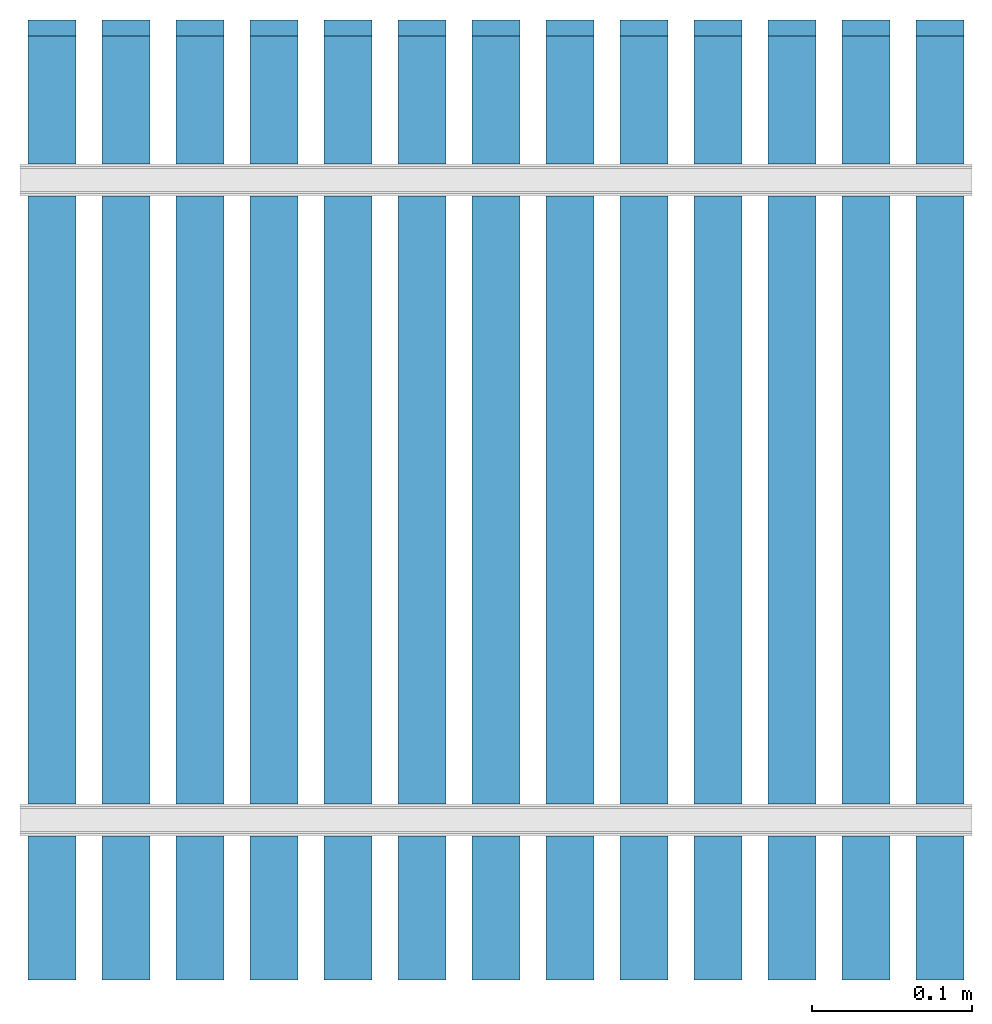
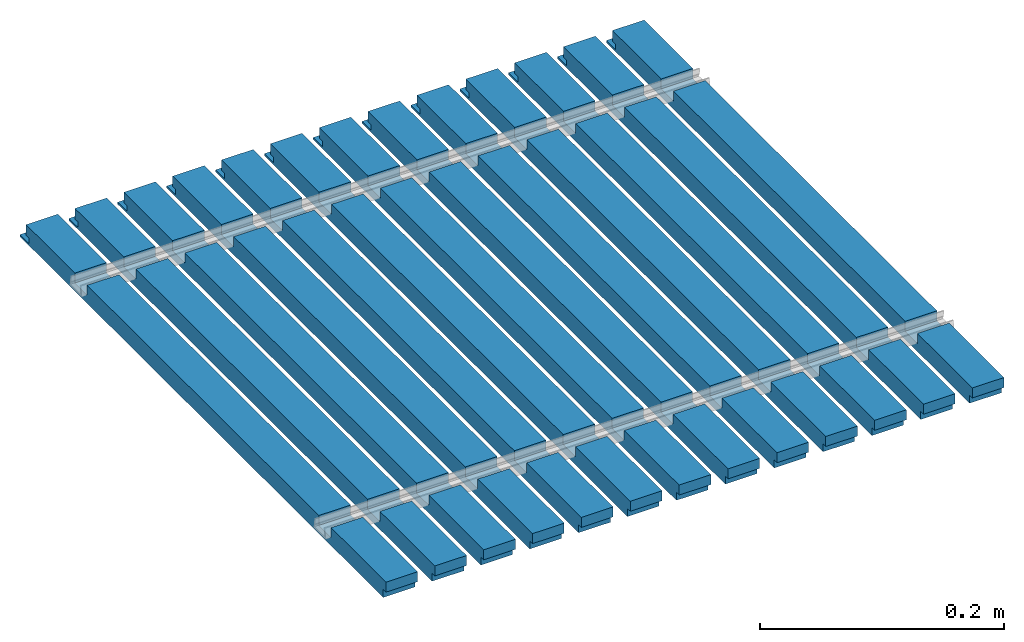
# One storey, part 2 of 2: 13 walls.
"""IFC2X3 building model written with IfcOpenShell, lengths in millimetres."""

import ifcopenshell
import ifcopenshell.guid

model = None  # the IFC model being written
_history = None  # IfcOwnerHistory: only IFC2X3 demands one
_inside = {}  # id of a spatial element -> (the spatial element, [elements in it])
_under = {}  # id of a project, library or spatial element -> (it, [spatial elements below it])
_declared = {}  # id of a project -> (the project, [libraries it declares])
_typed = {}  # id of a type object -> (the type object, [elements of that type])
_made_of = {}  # id of a material, layer set ... -> (it, [elements and type objects made of it])


def new_model(schema):
    """Start an empty IFC model of exactly this schema.

    Asked for "IFC4X3", IfcOpenShell would pick the latest addendum, in which some entities
    have other attributes; the version numbers below select the first issue.
    IFC2X3 requires an IfcOwnerHistory on every rooted entity: one is made here for all.
    """
    global model, _history
    if schema == "IFC4X3":
        model = ifcopenshell.file(schema_version=(4, 3, 0, 0))
    else:
        model = ifcopenshell.file(schema=schema)
    _inside.clear()
    _under.clear()
    _declared.clear()
    _typed.clear()
    _made_of.clear()
    _history = None
    if model.schema == "IFC2X3":
        org = make("IfcOrganization", Name="unknown")
        user = make(
            "IfcPersonAndOrganization",
            ThePerson=make("IfcPerson", FamilyName="unknown"),
            TheOrganization=org,
        )
        app = make(
            "IfcApplication",
            ApplicationDeveloper=org,
            Version="unknown",
            ApplicationFullName="unknown",
            ApplicationIdentifier="unknown",
        )
        _history = make(
            "IfcOwnerHistory",
            OwningUser=user,
            OwningApplication=app,
            ChangeAction="ADDED",
            CreationDate=0,
        )
    return model


def make(cls, **values):
    """One entity of the class cls with the attributes given. An attribute that is None is left unset."""
    return model.create_entity(
        cls, **{name: value for name, value in values.items() if value is not None}
    )


def entity(cls, *values):
    """Any entity or typed value of the class cls, its attributes in the order of the schema. None: left unset."""
    e = model.create_entity(cls)
    for i, value in enumerate(values):
        if value is not None:
            e[i] = value
    return e


def rooted(cls, **values):
    """An entity with a GlobalId (a new one), such as an element, a storey or a relation."""
    return make(cls, GlobalId=ifcopenshell.guid.new(), OwnerHistory=_history, **values)


def si_unit(unit_type, name, prefix=None):
    """IfcSIUnit, for example si_unit("LENGTHUNIT", "METRE", prefix="MILLI")."""
    return make("IfcSIUnit", UnitType=unit_type, Prefix=prefix, Name=name)


def converted_unit(unit_type, name, factor, base, dimensions=None, offset=None):
    """IfcConversionBasedUnit, such as the inch: factor (a typed value) times the base unit."""
    return make(
        "IfcConversionBasedUnit"
        if offset is None
        else "IfcConversionBasedUnitWithOffset",
        ConversionOffset=offset,
        Dimensions=None
        if dimensions is None
        else entity("IfcDimensionalExponents", *dimensions),
        UnitType=unit_type,
        Name=name,
        ConversionFactor=make(
            "IfcMeasureWithUnit", ValueComponent=factor, UnitComponent=base
        ),
    )


def money_unit(currency):
    """IfcMonetaryUnit."""
    return make("IfcMonetaryUnit", Currency=currency)


def assignment(units):
    """IfcUnitAssignment: the units of a project."""
    return None if units is None else make("IfcUnitAssignment", Units=units)


def point(xyz):
    """IfcCartesianPoint."""
    return None if xyz is None else make("IfcCartesianPoint", Coordinates=xyz)


def direction(xyz):
    """IfcDirection."""
    return None if xyz is None else make("IfcDirection", DirectionRatios=xyz)


def frame(location, z_axis=None, x_axis=None):
    """IfcAxis2Placement3D, a coordinate frame: its origin and axes. An axis left out is left unset."""
    return make(
        "IfcAxis2Placement3D",
        Location=point(location),
        Axis=direction(z_axis),
        RefDirection=direction(x_axis),
    )


def origin_with_axes():
    """The frame at (0, 0, 0) with the z axis (0, 0, 1) and the x axis (1, 0, 0) written out."""
    return frame((0.0, 0.0, 0.0), z_axis=(0.0, 0.0, 1.0), x_axis=(1.0, 0.0, 0.0))


def place(relative_to, where):
    """IfcLocalPlacement: puts the frame where relative to a parent placement (None: the world)."""
    return make(
        "IfcLocalPlacement", PlacementRelTo=relative_to, RelativePlacement=where
    )


def context(
    kind, dimensions, precision=None, world=None, true_north=None, identifier=None
):
    """IfcGeometricRepresentationContext, for example the 3D "Model" context."""
    return make(
        "IfcGeometricRepresentationContext",
        ContextIdentifier=identifier,
        ContextType=kind,
        CoordinateSpaceDimension=dimensions,
        Precision=precision,
        WorldCoordinateSystem=world,
        TrueNorth=true_north,
    )


def subcontext(parent, identifier, kind, view, scale=None):
    """IfcGeometricRepresentationSubContext, for example "Body" below "Model"."""
    return make(
        "IfcGeometricRepresentationSubContext",
        ContextIdentifier=identifier,
        ContextType=kind,
        ParentContext=parent,
        TargetScale=scale,
        TargetView=view,
    )


def project(units=None, contexts=None):
    """IfcProject with its units and contexts."""
    return rooted(
        "IfcProject",
        Name="project",
        RepresentationContexts=contexts,
        UnitsInContext=assignment(units),
    )


def spatial(cls, under=None, at=None, **own):
    """A site, building, storey or space (cls), placed at a placement, below another one or the project."""
    s = rooted(cls, ObjectPlacement=at, **own)
    if under is not None:
        _under.setdefault(under.id(), (under, []))[1].append(s)
    return s


def polyline(points):
    """IfcPolyline through the points."""
    return make("IfcPolyline", Points=[point(p) for p in points])


def outline(outer, holes=None, kind="AREA"):
    """IfcArbitraryClosedProfileDef: a profile drawn as a closed curve; with holes, ...WithVoids."""
    if holes is None:
        return make("IfcArbitraryClosedProfileDef", ProfileType=kind, OuterCurve=outer)
    return make(
        "IfcArbitraryProfileDefWithVoids",
        ProfileType=kind,
        OuterCurve=outer,
        InnerCurves=holes,
    )


def extrude(swept, where, along, depth):
    """IfcExtrudedAreaSolid: the profile swept, set in the frame where, extruded along a direction by depth."""
    return make(
        "IfcExtrudedAreaSolid",
        SweptArea=swept,
        Position=where,
        ExtrudedDirection=direction(along),
        Depth=depth,
    )


def boolean(op, a, b):
    """IfcBooleanResult of two solids."""
    return make("IfcBooleanResult", Operator=op, FirstOperand=a, SecondOperand=b)


def faces_of(points, faces, orient=None, outer=None):
    """IfcFace entities. A face is a list of loops; a loop is a list of indices into points, from 0.

    orient and outer hold one flag for each loop. By default every Orientation is true, the
    first loop of a face is its IfcFaceOuterBound and the others are IfcFaceBound.
    """
    made = []
    for i, loops in enumerate(faces):
        bounds = []
        for j, loop in enumerate(loops):
            is_outer = j == 0 if outer is None else outer[i][j]
            bounds.append(
                make(
                    "IfcFaceOuterBound" if is_outer else "IfcFaceBound",
                    Bound=make("IfcPolyLoop", Polygon=[points[k] for k in loop]),
                    Orientation=True if orient is None else orient[i][j],
                )
            )
        made.append(make("IfcFace", Bounds=bounds))
    return made


def faceted_brep(points, faces, orient=None, outer=None, voids=None):
    """IfcFacetedBrep: a solid bounded by flat faces; with voids (closed shells), ...WithVoids."""
    shared = [point(p) for p in points]
    hull = make("IfcClosedShell", CfsFaces=faces_of(shared, faces, orient, outer))
    if voids is None:
        return make("IfcFacetedBrep", Outer=hull)
    return make(
        "IfcFacetedBrepWithVoids",
        Outer=hull,
        Voids=[
            make(cls, CfsFaces=faces_of(shared, fs, o, b)) for cls, fs, o, b in voids
        ],
    )


def shape(context_of_items, identifier, shape_type, items):
    """IfcShapeRepresentation: the items that make up one representation, for example the "Body"."""
    return make(
        "IfcShapeRepresentation",
        ContextOfItems=context_of_items,
        RepresentationIdentifier=identifier,
        RepresentationType=shape_type,
        Items=items,
    )


def material(Name=None, Category=None):
    """IfcMaterial."""
    return make("IfcMaterial", Name=Name, Category=Category)


def layer(
    of_material, thickness, ventilated=None, Name=None, Category=None, Priority=None
):
    """IfcMaterialLayer: one layer of a wall or slab, of a material (None: an air gap)."""
    return make(
        "IfcMaterialLayer",
        Material=of_material,
        LayerThickness=thickness,
        IsVentilated=ventilated,
        Name=Name,
        Category=Category,
        Priority=Priority,
    )


def layer_set(layers, Name=None):
    """IfcMaterialLayerSet."""
    return make("IfcMaterialLayerSet", MaterialLayers=layers, LayerSetName=Name)


def layer_usage(for_layer_set, set_direction, sense, offset, extent=None):
    """IfcMaterialLayerSetUsage: how a layer set lies in its element."""
    return make(
        "IfcMaterialLayerSetUsage",
        ForLayerSet=for_layer_set,
        LayerSetDirection=set_direction,
        DirectionSense=sense,
        OffsetFromReferenceLine=offset,
        ReferenceExtent=extent,
    )


def made_of(thing, what):
    """Note that an element or type object is made of a material, layer set ...; save() writes the relation."""
    if what is not None:
        _made_of.setdefault(what.id(), (what, []))[1].append(thing)
    return thing


def type_object(cls, material=None, **own):
    """A type object (cls), such as IfcWallType, which elements share."""
    return made_of(rooted(cls, **own), material)


def element(
    cls,
    number,
    at=None,
    inside=None,
    cuts=None,
    type_object=None,
    material=None,
    context=None,
    identifier="Body",
    shape_type=None,
    held_by="IfcProductDefinitionShape",
    body=None,
    shapes=None,
    **own,
):
    """One element of the class cls, such as IfcWall. Its Tag is "e" and its number.

    at: its placement. inside: the storey or other place that contains it. cuts: it is an
    opening in that element (IfcRelVoidsElement). A single representation is given by context,
    identifier, shape_type and body (its items); several are given by shapes. held_by: the class
    of the entity that holds the representations. save() writes the other relations.
    """
    e = rooted(cls, Tag="e%d" % number, ObjectPlacement=at, **own)
    if body is not None:
        shapes = [shape(context, identifier, shape_type, body)]
    if shapes is not None:
        e.Representation = make(held_by, Representations=shapes)
    if inside is not None:
        _inside.setdefault(inside.id(), (inside, []))[1].append(e)
    if cuts is not None:
        rooted(
            "IfcRelVoidsElement", RelatingBuildingElement=cuts, RelatedOpeningElement=e
        )
    if type_object is not None:
        _typed.setdefault(type_object.id(), (type_object, []))[1].append(e)
    return made_of(e, material)


def aggregate(whole, parts):
    """IfcRelAggregates: a whole, such as a stair, and the parts it consists of."""
    return rooted("IfcRelAggregates", RelatingObject=whole, RelatedObjects=parts)


def save(model, path):
    """Write the relations noted so far, then the file.

    IfcRelAggregates (storeys below a building ...), IfcRelContainedInSpatialStructure (elements
    in a storey), IfcRelDefinesByType, IfcRelAssociatesMaterial and IfcRelDeclares: one each for
    every whole, place, type object, material and project.
    """
    for whole, parts in _under.values():
        aggregate(whole, parts)
    for where, things in _inside.values():
        rooted(
            "IfcRelContainedInSpatialStructure",
            RelatedElements=things,
            RelatingStructure=where,
        )
    for kind, things in _typed.values():
        rooted("IfcRelDefinesByType", RelatedObjects=things, RelatingType=kind)
    for what, things in _made_of.values():
        rooted("IfcRelAssociatesMaterial", RelatedObjects=things, RelatingMaterial=what)
    for by, libraries in _declared.values():
        rooted("IfcRelDeclares", RelatingContext=by, RelatedDefinitions=libraries)
    model.write(path)


model = new_model("IFC2X3")

# Units and contexts
model_context = context("Model", 3, precision=1e-05, world=origin_with_axes(), true_north=direction((0.0, 1.0)))
body_context = subcontext(model_context, "Body", "Model", "MODEL_VIEW")
ifc_project = project(units=[si_unit("LENGTHUNIT", "METRE", prefix="MILLI"), si_unit("AREAUNIT", "SQUARE_METRE"), si_unit("VOLUMEUNIT", "CUBIC_METRE"), converted_unit("PLANEANGLEUNIT", "DEGREE", entity("IfcPlaneAngleMeasure", 0.0174532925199), si_unit("PLANEANGLEUNIT", "RADIAN"), dimensions=[0, 0, 0, 0, 0, 0, 0]), si_unit("SOLIDANGLEUNIT", "STERADIAN"), money_unit("AUD"), si_unit("TIMEUNIT", "SECOND"), si_unit("MASSUNIT", "GRAM"), si_unit("THERMODYNAMICTEMPERATUREUNIT", "DEGREE_CELSIUS"), si_unit("LUMINOUSINTENSITYUNIT", "LUMEN")], contexts=[model_context])

# Site, building, storey
site_placement = place(None, origin_with_axes())
site = spatial("IfcSite", under=ifc_project, at=site_placement, Name="Site", CompositionType="ELEMENT")
building_placement = place(site_placement, origin_with_axes())
building = spatial("IfcBuilding", under=site, at=building_placement, Name="Building", CompositionType="ELEMENT")
storey_placement = place(building_placement, origin_with_axes())
storey = spatial("IfcBuildingStorey", under=building, at=storey_placement, Name="GROUND", CompositionType="ELEMENT", Elevation=0.0)

# Walls
ifc_material = material(Name="Timber")
ifc_layer = layer(ifc_material, 30.0, ventilated="UNKNOWN")
ifc_layer_set = layer_set([ifc_layer], Name="Timber 30")
ifc_layer_usage_1 = layer_usage(ifc_layer_set, "AXIS2", "POSITIVE", 0.0)
wall_type = type_object("IfcWallType", Name="Timber 30", PredefinedType="NOTDEFINED")
wall_1_placement = place(storey_placement, frame((592.5, 0.0, 0.0), z_axis=(0.0, 0.0, 1.0), x_axis=(0.0, 1.0, 0.0)))
element("IfcWallStandardCase", 1, at=wall_1_placement, inside=storey, type_object=wall_type, material=ifc_layer_usage_1, Name="WALL-01", context=body_context, shape_type="CSG", body=[
    boolean("DIFFERENCE", boolean("DIFFERENCE", boolean("DIFFERENCE", boolean("DIFFERENCE", extrude(outline(polyline([(0.0, 0.0), (600.0, 0.0), (600.0, 30.0), (0.0, 30.0), (0.0, 0.0)])), origin_with_axes(), (0.0, 0.0, 1.0), 18.0), faceted_brep([(4.5, 0.0, 8.0), (0.0, 0.0, 8.0), (0.0, 0.0, 0.0), (4.5, 0.0, 0.0), (4.5, 30.0, 8.0), (0.0, 30.0, 8.0), (0.0, 30.0, 0.0), (4.5, 30.0, 0.0)], [[[0, 1, 2, 3]], [[1, 0, 4, 5]], [[1, 5, 6, 2]], [[7, 3, 2, 6]], [[0, 3, 7, 4]], [[4, 7, 6, 5]]])), faceted_brep([(90.0, 0.0, 8.0), (110.000000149, 0.0, 8.0), (110.000000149, 0.0, 18.0), (90.0, 0.0, 18.0), (90.0, 30.0, 8.0), (110.000000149, 30.0, 8.0), (110.000000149, 30.0, 18.0), (90.0, 30.0, 18.0)], [[[0, 1, 2, 3]], [[1, 0, 4, 5]], [[6, 2, 1, 5]], [[7, 3, 2, 6]], [[0, 3, 7, 4]], [[4, 7, 6, 5]]])), faceted_brep([(490.0, 0.0, 8.0), (510.000000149, 0.0, 8.0), (510.000000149, 0.0, 18.0), (490.0, 0.0, 18.0), (490.0, 30.0, 8.0), (510.000000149, 30.0, 8.0), (510.000000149, 30.0, 18.0), (490.0, 30.0, 18.0)], [[[0, 1, 2, 3]], [[1, 0, 4, 5]], [[6, 2, 1, 5]], [[7, 3, 2, 6]], [[0, 3, 7, 4]], [[4, 7, 6, 5]]])), faceted_brep([(585.0, 0.0, 7.5), (585.0, 0.0, 2.0), (600.0, 0.0, 2.0), (600.0, 0.0, 18.0), (590.0, 0.0, 18.0), (590.0, 0.0, 7.5), (585.0, 30.0, 7.5), (585.0, 30.0, 2.0), (600.0, 30.0, 2.0), (600.0, 30.0, 18.0), (590.0, 30.0, 18.0), (590.0, 30.0, 7.5)], [[[0, 1, 2, 3, 4, 5]], [[1, 0, 6, 7]], [[8, 2, 1, 7]], [[2, 8, 9, 3]], [[10, 4, 3, 9]], [[5, 4, 10, 11]], [[0, 5, 11, 6]], [[11, 10, 9, 8, 7, 6]]])),
])
ifc_layer_usage_2 = layer_usage(ifc_layer_set, "AXIS2", "POSITIVE", 0.0)
wall_2_placement = place(storey_placement, frame((546.25, 0.0, 0.0), z_axis=(0.0, 0.0, 1.0), x_axis=(0.0, 1.0, 0.0)))
element("IfcWallStandardCase", 2, at=wall_2_placement, inside=storey, type_object=wall_type, material=ifc_layer_usage_2, Name="WALL-01", context=body_context, shape_type="CSG", body=[
    boolean("DIFFERENCE", boolean("DIFFERENCE", boolean("DIFFERENCE", boolean("DIFFERENCE", extrude(outline(polyline([(0.0, 0.0), (600.0, 0.0), (600.0, 30.0), (0.0, 30.0), (0.0, 0.0)])), origin_with_axes(), (0.0, 0.0, 1.0), 18.0), faceted_brep([(4.5, 0.0, 8.0), (0.0, 0.0, 8.0), (0.0, 0.0, 0.0), (4.5, 0.0, 0.0), (4.5, 30.0, 8.0), (0.0, 30.0, 8.0), (0.0, 30.0, 0.0), (4.5, 30.0, 0.0)], [[[0, 1, 2, 3]], [[1, 0, 4, 5]], [[1, 5, 6, 2]], [[7, 3, 2, 6]], [[0, 3, 7, 4]], [[4, 7, 6, 5]]])), faceted_brep([(90.0, 0.0, 8.0), (110.000000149, 0.0, 8.0), (110.000000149, 0.0, 18.0), (90.0, 0.0, 18.0), (90.0, 30.0, 8.0), (110.000000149, 30.0, 8.0), (110.000000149, 30.0, 18.0), (90.0, 30.0, 18.0)], [[[0, 1, 2, 3]], [[1, 0, 4, 5]], [[6, 2, 1, 5]], [[7, 3, 2, 6]], [[0, 3, 7, 4]], [[4, 7, 6, 5]]])), faceted_brep([(490.0, 0.0, 8.0), (510.000000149, 0.0, 8.0), (510.000000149, 0.0, 18.0), (490.0, 0.0, 18.0), (490.0, 30.0, 8.0), (510.000000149, 30.0, 8.0), (510.000000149, 30.0, 18.0), (490.0, 30.0, 18.0)], [[[0, 1, 2, 3]], [[1, 0, 4, 5]], [[6, 2, 1, 5]], [[7, 3, 2, 6]], [[0, 3, 7, 4]], [[4, 7, 6, 5]]])), faceted_brep([(585.0, 0.0, 7.5), (585.0, 0.0, 2.0), (600.0, 0.0, 2.0), (600.0, 0.0, 18.0), (590.0, 0.0, 18.0), (590.0, 0.0, 7.5), (585.0, 30.0, 7.5), (585.0, 30.0, 2.0), (600.0, 30.0, 2.0), (600.0, 30.0, 18.0), (590.0, 30.0, 18.0), (590.0, 30.0, 7.5)], [[[0, 1, 2, 3, 4, 5]], [[1, 0, 6, 7]], [[8, 2, 1, 7]], [[2, 8, 9, 3]], [[10, 4, 3, 9]], [[5, 4, 10, 11]], [[0, 5, 11, 6]], [[11, 10, 9, 8, 7, 6]]])),
])
ifc_layer_usage_3 = layer_usage(ifc_layer_set, "AXIS2", "POSITIVE", 0.0)
wall_3_placement = place(storey_placement, frame((500.0, 0.0, 0.0), z_axis=(0.0, 0.0, 1.0), x_axis=(0.0, 1.0, 0.0)))
element("IfcWallStandardCase", 3, at=wall_3_placement, inside=storey, type_object=wall_type, material=ifc_layer_usage_3, Name="WALL-01", context=body_context, shape_type="CSG", body=[
    boolean("DIFFERENCE", boolean("DIFFERENCE", boolean("DIFFERENCE", boolean("DIFFERENCE", extrude(outline(polyline([(0.0, 0.0), (600.0, 0.0), (600.0, 30.0), (0.0, 30.0), (0.0, 0.0)])), origin_with_axes(), (0.0, 0.0, 1.0), 18.0), faceted_brep([(4.5, 0.0, 8.0), (0.0, 0.0, 8.0), (0.0, 0.0, 0.0), (4.5, 0.0, 0.0), (4.5, 30.0, 8.0), (0.0, 30.0, 8.0), (0.0, 30.0, 0.0), (4.5, 30.0, 0.0)], [[[0, 1, 2, 3]], [[1, 0, 4, 5]], [[1, 5, 6, 2]], [[7, 3, 2, 6]], [[0, 3, 7, 4]], [[4, 7, 6, 5]]])), faceted_brep([(90.0, 0.0, 8.0), (110.000000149, 0.0, 8.0), (110.000000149, 0.0, 18.0), (90.0, 0.0, 18.0), (90.0, 30.0, 8.0), (110.000000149, 30.0, 8.0), (110.000000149, 30.0, 18.0), (90.0, 30.0, 18.0)], [[[0, 1, 2, 3]], [[1, 0, 4, 5]], [[6, 2, 1, 5]], [[7, 3, 2, 6]], [[0, 3, 7, 4]], [[4, 7, 6, 5]]])), faceted_brep([(490.0, 0.0, 8.0), (510.000000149, 0.0, 8.0), (510.000000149, 0.0, 18.0), (490.0, 0.0, 18.0), (490.0, 30.0, 8.0), (510.000000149, 30.0, 8.0), (510.000000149, 30.0, 18.0), (490.0, 30.0, 18.0)], [[[0, 1, 2, 3]], [[1, 0, 4, 5]], [[6, 2, 1, 5]], [[7, 3, 2, 6]], [[0, 3, 7, 4]], [[4, 7, 6, 5]]])), faceted_brep([(585.0, 0.0, 7.5), (585.0, 0.0, 2.0), (600.0, 0.0, 2.0), (600.0, 0.0, 18.0), (590.0, 0.0, 18.0), (590.0, 0.0, 7.5), (585.0, 30.0, 7.5), (585.0, 30.0, 2.0), (600.0, 30.0, 2.0), (600.0, 30.0, 18.0), (590.0, 30.0, 18.0), (590.0, 30.0, 7.5)], [[[0, 1, 2, 3, 4, 5]], [[1, 0, 6, 7]], [[8, 2, 1, 7]], [[2, 8, 9, 3]], [[10, 4, 3, 9]], [[5, 4, 10, 11]], [[0, 5, 11, 6]], [[11, 10, 9, 8, 7, 6]]])),
])
ifc_layer_usage_4 = layer_usage(ifc_layer_set, "AXIS2", "POSITIVE", 0.0)
wall_4_placement = place(storey_placement, frame((453.75, 0.0, 0.0), z_axis=(0.0, 0.0, 1.0), x_axis=(0.0, 1.0, 0.0)))
element("IfcWallStandardCase", 4, at=wall_4_placement, inside=storey, type_object=wall_type, material=ifc_layer_usage_4, Name="WALL-01", context=body_context, shape_type="CSG", body=[
    boolean("DIFFERENCE", boolean("DIFFERENCE", boolean("DIFFERENCE", boolean("DIFFERENCE", extrude(outline(polyline([(0.0, 0.0), (600.0, 0.0), (600.0, 30.0), (0.0, 30.0), (0.0, 0.0)])), origin_with_axes(), (0.0, 0.0, 1.0), 18.0), faceted_brep([(4.5, 0.0, 8.0), (0.0, 0.0, 8.0), (0.0, 0.0, 0.0), (4.5, 0.0, 0.0), (4.5, 30.0, 8.0), (0.0, 30.0, 8.0), (0.0, 30.0, 0.0), (4.5, 30.0, 0.0)], [[[0, 1, 2, 3]], [[1, 0, 4, 5]], [[1, 5, 6, 2]], [[7, 3, 2, 6]], [[0, 3, 7, 4]], [[4, 7, 6, 5]]])), faceted_brep([(90.0, 0.0, 8.0), (110.000000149, 0.0, 8.0), (110.000000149, 0.0, 18.0), (90.0, 0.0, 18.0), (90.0, 30.0, 8.0), (110.000000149, 30.0, 8.0), (110.000000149, 30.0, 18.0), (90.0, 30.0, 18.0)], [[[0, 1, 2, 3]], [[1, 0, 4, 5]], [[6, 2, 1, 5]], [[7, 3, 2, 6]], [[0, 3, 7, 4]], [[4, 7, 6, 5]]])), faceted_brep([(490.0, 0.0, 8.0), (510.000000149, 0.0, 8.0), (510.000000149, 0.0, 18.0), (490.0, 0.0, 18.0), (490.0, 30.0, 8.0), (510.000000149, 30.0, 8.0), (510.000000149, 30.0, 18.0), (490.0, 30.0, 18.0)], [[[0, 1, 2, 3]], [[1, 0, 4, 5]], [[6, 2, 1, 5]], [[7, 3, 2, 6]], [[0, 3, 7, 4]], [[4, 7, 6, 5]]])), faceted_brep([(585.0, 0.0, 7.5), (585.0, 0.0, 2.0), (600.0, 0.0, 2.0), (600.0, 0.0, 18.0), (590.0, 0.0, 18.0), (590.0, 0.0, 7.5), (585.0, 30.0, 7.5), (585.0, 30.0, 2.0), (600.0, 30.0, 2.0), (600.0, 30.0, 18.0), (590.0, 30.0, 18.0), (590.0, 30.0, 7.5)], [[[0, 1, 2, 3, 4, 5]], [[1, 0, 6, 7]], [[8, 2, 1, 7]], [[2, 8, 9, 3]], [[10, 4, 3, 9]], [[5, 4, 10, 11]], [[0, 5, 11, 6]], [[11, 10, 9, 8, 7, 6]]])),
])
ifc_layer_usage_5 = layer_usage(ifc_layer_set, "AXIS2", "POSITIVE", 0.0)
wall_5_placement = place(storey_placement, frame((407.5, 0.0, 0.0), z_axis=(0.0, 0.0, 1.0), x_axis=(0.0, 1.0, 0.0)))
element("IfcWallStandardCase", 5, at=wall_5_placement, inside=storey, type_object=wall_type, material=ifc_layer_usage_5, Name="WALL-01", context=body_context, shape_type="CSG", body=[
    boolean("DIFFERENCE", boolean("DIFFERENCE", boolean("DIFFERENCE", boolean("DIFFERENCE", extrude(outline(polyline([(0.0, 0.0), (600.0, 0.0), (600.0, 30.0), (0.0, 30.0), (0.0, 0.0)])), origin_with_axes(), (0.0, 0.0, 1.0), 18.0), faceted_brep([(4.5, 0.0, 8.0), (0.0, 0.0, 8.0), (0.0, 0.0, 0.0), (4.5, 0.0, 0.0), (4.5, 30.0, 8.0), (0.0, 30.0, 8.0), (0.0, 30.0, 0.0), (4.5, 30.0, 0.0)], [[[0, 1, 2, 3]], [[1, 0, 4, 5]], [[1, 5, 6, 2]], [[7, 3, 2, 6]], [[0, 3, 7, 4]], [[4, 7, 6, 5]]])), faceted_brep([(90.0, 0.0, 8.0), (110.000000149, 0.0, 8.0), (110.000000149, 0.0, 18.0), (90.0, 0.0, 18.0), (90.0, 30.0, 8.0), (110.000000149, 30.0, 8.0), (110.000000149, 30.0, 18.0), (90.0, 30.0, 18.0)], [[[0, 1, 2, 3]], [[1, 0, 4, 5]], [[6, 2, 1, 5]], [[7, 3, 2, 6]], [[0, 3, 7, 4]], [[4, 7, 6, 5]]])), faceted_brep([(490.0, 0.0, 8.0), (510.000000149, 0.0, 8.0), (510.000000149, 0.0, 18.0), (490.0, 0.0, 18.0), (490.0, 30.0, 8.0), (510.000000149, 30.0, 8.0), (510.000000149, 30.0, 18.0), (490.0, 30.0, 18.0)], [[[0, 1, 2, 3]], [[1, 0, 4, 5]], [[6, 2, 1, 5]], [[7, 3, 2, 6]], [[0, 3, 7, 4]], [[4, 7, 6, 5]]])), faceted_brep([(585.0, 0.0, 7.5), (585.0, 0.0, 2.0), (600.0, 0.0, 2.0), (600.0, 0.0, 18.0), (590.0, 0.0, 18.0), (590.0, 0.0, 7.5), (585.0, 30.0, 7.5), (585.0, 30.0, 2.0), (600.0, 30.0, 2.0), (600.0, 30.0, 18.0), (590.0, 30.0, 18.0), (590.0, 30.0, 7.5)], [[[0, 1, 2, 3, 4, 5]], [[1, 0, 6, 7]], [[8, 2, 1, 7]], [[2, 8, 9, 3]], [[10, 4, 3, 9]], [[5, 4, 10, 11]], [[0, 5, 11, 6]], [[11, 10, 9, 8, 7, 6]]])),
])
ifc_layer_usage_6 = layer_usage(ifc_layer_set, "AXIS2", "POSITIVE", 0.0)
wall_6_placement = place(storey_placement, frame((222.5, 0.0, 0.0), z_axis=(0.0, 0.0, 1.0), x_axis=(0.0, 1.0, 0.0)))
element("IfcWallStandardCase", 6, at=wall_6_placement, inside=storey, type_object=wall_type, material=ifc_layer_usage_6, Name="WALL-01", context=body_context, shape_type="CSG", body=[
    boolean("DIFFERENCE", boolean("DIFFERENCE", boolean("DIFFERENCE", boolean("DIFFERENCE", extrude(outline(polyline([(0.0, 0.0), (600.0, 0.0), (600.0, 30.0), (0.0, 30.0), (0.0, 0.0)])), origin_with_axes(), (0.0, 0.0, 1.0), 18.0), faceted_brep([(4.5, 0.0, 8.0), (0.0, 0.0, 8.0), (0.0, 0.0, 0.0), (4.5, 0.0, 0.0), (4.5, 30.0, 8.0), (0.0, 30.0, 8.0), (0.0, 30.0, 0.0), (4.5, 30.0, 0.0)], [[[0, 1, 2, 3]], [[1, 0, 4, 5]], [[1, 5, 6, 2]], [[7, 3, 2, 6]], [[0, 3, 7, 4]], [[4, 7, 6, 5]]])), faceted_brep([(90.0, 0.0, 8.0), (110.000000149, 0.0, 8.0), (110.000000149, 0.0, 18.0), (90.0, 0.0, 18.0), (90.0, 30.0, 8.0), (110.000000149, 30.0, 8.0), (110.000000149, 30.0, 18.0), (90.0, 30.0, 18.0)], [[[0, 1, 2, 3]], [[1, 0, 4, 5]], [[6, 2, 1, 5]], [[7, 3, 2, 6]], [[0, 3, 7, 4]], [[4, 7, 6, 5]]])), faceted_brep([(490.0, 0.0, 8.0), (510.000000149, 0.0, 8.0), (510.000000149, 0.0, 18.0), (490.0, 0.0, 18.0), (490.0, 30.0, 8.0), (510.000000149, 30.0, 8.0), (510.000000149, 30.0, 18.0), (490.0, 30.0, 18.0)], [[[0, 1, 2, 3]], [[1, 0, 4, 5]], [[6, 2, 1, 5]], [[7, 3, 2, 6]], [[0, 3, 7, 4]], [[4, 7, 6, 5]]])), faceted_brep([(585.0, 0.0, 7.5), (585.0, 0.0, 2.0), (600.0, 0.0, 2.0), (600.0, 0.0, 18.0), (590.0, 0.0, 18.0), (590.0, 0.0, 7.5), (585.0, 30.0, 7.5), (585.0, 30.0, 2.0), (600.0, 30.0, 2.0), (600.0, 30.0, 18.0), (590.0, 30.0, 18.0), (590.0, 30.0, 7.5)], [[[0, 1, 2, 3, 4, 5]], [[1, 0, 6, 7]], [[8, 2, 1, 7]], [[2, 8, 9, 3]], [[10, 4, 3, 9]], [[5, 4, 10, 11]], [[0, 5, 11, 6]], [[11, 10, 9, 8, 7, 6]]])),
])
ifc_layer_usage_7 = layer_usage(ifc_layer_set, "AXIS2", "POSITIVE", 0.0)
wall_7_placement = place(storey_placement, frame((268.75, 0.0, 0.0), z_axis=(0.0, 0.0, 1.0), x_axis=(0.0, 1.0, 0.0)))
element("IfcWallStandardCase", 7, at=wall_7_placement, inside=storey, type_object=wall_type, material=ifc_layer_usage_7, Name="WALL-01", context=body_context, shape_type="CSG", body=[
    boolean("DIFFERENCE", boolean("DIFFERENCE", boolean("DIFFERENCE", boolean("DIFFERENCE", extrude(outline(polyline([(0.0, 0.0), (600.0, 0.0), (600.0, 30.0), (0.0, 30.0), (0.0, 0.0)])), origin_with_axes(), (0.0, 0.0, 1.0), 18.0), faceted_brep([(4.5, 0.0, 8.0), (0.0, 0.0, 8.0), (0.0, 0.0, 0.0), (4.5, 0.0, 0.0), (4.5, 30.0, 8.0), (0.0, 30.0, 8.0), (0.0, 30.0, 0.0), (4.5, 30.0, 0.0)], [[[0, 1, 2, 3]], [[1, 0, 4, 5]], [[1, 5, 6, 2]], [[7, 3, 2, 6]], [[0, 3, 7, 4]], [[4, 7, 6, 5]]])), faceted_brep([(90.0, 0.0, 8.0), (110.000000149, 0.0, 8.0), (110.000000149, 0.0, 18.0), (90.0, 0.0, 18.0), (90.0, 30.0, 8.0), (110.000000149, 30.0, 8.0), (110.000000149, 30.0, 18.0), (90.0, 30.0, 18.0)], [[[0, 1, 2, 3]], [[1, 0, 4, 5]], [[6, 2, 1, 5]], [[7, 3, 2, 6]], [[0, 3, 7, 4]], [[4, 7, 6, 5]]])), faceted_brep([(490.0, 0.0, 8.0), (510.000000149, 0.0, 8.0), (510.000000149, 0.0, 18.0), (490.0, 0.0, 18.0), (490.0, 30.0, 8.0), (510.000000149, 30.0, 8.0), (510.000000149, 30.0, 18.0), (490.0, 30.0, 18.0)], [[[0, 1, 2, 3]], [[1, 0, 4, 5]], [[6, 2, 1, 5]], [[7, 3, 2, 6]], [[0, 3, 7, 4]], [[4, 7, 6, 5]]])), faceted_brep([(585.0, 0.0, 7.5), (585.0, 0.0, 2.0), (600.0, 0.0, 2.0), (600.0, 0.0, 18.0), (590.0, 0.0, 18.0), (590.0, 0.0, 7.5), (585.0, 30.0, 7.5), (585.0, 30.0, 2.0), (600.0, 30.0, 2.0), (600.0, 30.0, 18.0), (590.0, 30.0, 18.0), (590.0, 30.0, 7.5)], [[[0, 1, 2, 3, 4, 5]], [[1, 0, 6, 7]], [[8, 2, 1, 7]], [[2, 8, 9, 3]], [[10, 4, 3, 9]], [[5, 4, 10, 11]], [[0, 5, 11, 6]], [[11, 10, 9, 8, 7, 6]]])),
])
ifc_layer_usage_8 = layer_usage(ifc_layer_set, "AXIS2", "POSITIVE", 0.0)
wall_8_placement = place(storey_placement, frame((37.5, 0.0, 0.0), z_axis=(0.0, 0.0, 1.0), x_axis=(0.0, 1.0, 0.0)))
element("IfcWallStandardCase", 8, at=wall_8_placement, inside=storey, type_object=wall_type, material=ifc_layer_usage_8, Name="WALL-01", context=body_context, shape_type="CSG", body=[
    boolean("DIFFERENCE", boolean("DIFFERENCE", boolean("DIFFERENCE", boolean("DIFFERENCE", extrude(outline(polyline([(0.0, 0.0), (600.0, 0.0), (600.0, 30.0), (0.0, 30.0), (0.0, 0.0)])), origin_with_axes(), (0.0, 0.0, 1.0), 18.0), faceted_brep([(4.5, 0.0, 8.0), (0.0, 0.0, 8.0), (0.0, 0.0, 0.0), (4.5, 0.0, 0.0), (4.5, 30.0, 8.0), (0.0, 30.0, 8.0), (0.0, 30.0, 0.0), (4.5, 30.0, 0.0)], [[[0, 1, 2, 3]], [[1, 0, 4, 5]], [[1, 5, 6, 2]], [[7, 3, 2, 6]], [[0, 3, 7, 4]], [[4, 7, 6, 5]]])), faceted_brep([(90.0, 0.0, 8.0), (110.000000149, 0.0, 8.0), (110.000000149, 0.0, 18.0), (90.0, 0.0, 18.0), (90.0, 30.0, 8.0), (110.000000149, 30.0, 8.0), (110.000000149, 30.0, 18.0), (90.0, 30.0, 18.0)], [[[0, 1, 2, 3]], [[1, 0, 4, 5]], [[6, 2, 1, 5]], [[7, 3, 2, 6]], [[0, 3, 7, 4]], [[4, 7, 6, 5]]])), faceted_brep([(490.0, 0.0, 8.0), (510.000000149, 0.0, 8.0), (510.000000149, 0.0, 18.0), (490.0, 0.0, 18.0), (490.0, 30.0, 8.0), (510.000000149, 30.0, 8.0), (510.000000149, 30.0, 18.0), (490.0, 30.0, 18.0)], [[[0, 1, 2, 3]], [[1, 0, 4, 5]], [[6, 2, 1, 5]], [[7, 3, 2, 6]], [[0, 3, 7, 4]], [[4, 7, 6, 5]]])), faceted_brep([(585.0, 0.0, 7.5), (585.0, 0.0, 2.0), (600.0, 0.0, 2.0), (600.0, 0.0, 18.0), (590.0, 0.0, 18.0), (590.0, 0.0, 7.5), (585.0, 30.0, 7.5), (585.0, 30.0, 2.0), (600.0, 30.0, 2.0), (600.0, 30.0, 18.0), (590.0, 30.0, 18.0), (590.0, 30.0, 7.5)], [[[0, 1, 2, 3, 4, 5]], [[1, 0, 6, 7]], [[8, 2, 1, 7]], [[2, 8, 9, 3]], [[10, 4, 3, 9]], [[5, 4, 10, 11]], [[0, 5, 11, 6]], [[11, 10, 9, 8, 7, 6]]])),
])
ifc_layer_usage_9 = layer_usage(ifc_layer_set, "AXIS2", "POSITIVE", 0.0)
wall_9_placement = place(storey_placement, frame((83.75, 0.0, 0.0), z_axis=(0.0, 0.0, 1.0), x_axis=(0.0, 1.0, 0.0)))
element("IfcWallStandardCase", 9, at=wall_9_placement, inside=storey, type_object=wall_type, material=ifc_layer_usage_9, Name="WALL-01", context=body_context, shape_type="CSG", body=[
    boolean("DIFFERENCE", boolean("DIFFERENCE", boolean("DIFFERENCE", boolean("DIFFERENCE", extrude(outline(polyline([(0.0, 0.0), (600.0, 0.0), (600.0, 30.0), (0.0, 30.0), (0.0, 0.0)])), origin_with_axes(), (0.0, 0.0, 1.0), 18.0), faceted_brep([(4.5, 0.0, 8.0), (0.0, 0.0, 8.0), (0.0, 0.0, 0.0), (4.5, 0.0, 0.0), (4.5, 30.0, 8.0), (0.0, 30.0, 8.0), (0.0, 30.0, 0.0), (4.5, 30.0, 0.0)], [[[0, 1, 2, 3]], [[1, 0, 4, 5]], [[1, 5, 6, 2]], [[7, 3, 2, 6]], [[0, 3, 7, 4]], [[4, 7, 6, 5]]])), faceted_brep([(90.0, 0.0, 8.0), (110.000000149, 0.0, 8.0), (110.000000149, 0.0, 18.0), (90.0, 0.0, 18.0), (90.0, 30.0, 8.0), (110.000000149, 30.0, 8.0), (110.000000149, 30.0, 18.0), (90.0, 30.0, 18.0)], [[[0, 1, 2, 3]], [[1, 0, 4, 5]], [[6, 2, 1, 5]], [[7, 3, 2, 6]], [[0, 3, 7, 4]], [[4, 7, 6, 5]]])), faceted_brep([(490.0, 0.0, 8.0), (510.000000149, 0.0, 8.0), (510.000000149, 0.0, 18.0), (490.0, 0.0, 18.0), (490.0, 30.0, 8.0), (510.000000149, 30.0, 8.0), (510.000000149, 30.0, 18.0), (490.0, 30.0, 18.0)], [[[0, 1, 2, 3]], [[1, 0, 4, 5]], [[6, 2, 1, 5]], [[7, 3, 2, 6]], [[0, 3, 7, 4]], [[4, 7, 6, 5]]])), faceted_brep([(585.0, 0.0, 7.5), (585.0, 0.0, 2.0), (600.0, 0.0, 2.0), (600.0, 0.0, 18.0), (590.0, 0.0, 18.0), (590.0, 0.0, 7.5), (585.0, 30.0, 7.5), (585.0, 30.0, 2.0), (600.0, 30.0, 2.0), (600.0, 30.0, 18.0), (590.0, 30.0, 18.0), (590.0, 30.0, 7.5)], [[[0, 1, 2, 3, 4, 5]], [[1, 0, 6, 7]], [[8, 2, 1, 7]], [[2, 8, 9, 3]], [[10, 4, 3, 9]], [[5, 4, 10, 11]], [[0, 5, 11, 6]], [[11, 10, 9, 8, 7, 6]]])),
])
ifc_layer_usage_10 = layer_usage(ifc_layer_set, "AXIS2", "POSITIVE", 0.0)
wall_10_placement = place(storey_placement, frame((315.0, 0.0, 0.0), z_axis=(0.0, 0.0, 1.0), x_axis=(0.0, 1.0, 0.0)))
element("IfcWallStandardCase", 10, at=wall_10_placement, inside=storey, type_object=wall_type, material=ifc_layer_usage_10, Name="WALL-01", context=body_context, shape_type="CSG", body=[
    boolean("DIFFERENCE", boolean("DIFFERENCE", boolean("DIFFERENCE", boolean("DIFFERENCE", extrude(outline(polyline([(0.0, 0.0), (600.0, 0.0), (600.0, 30.0), (0.0, 30.0), (0.0, 0.0)])), origin_with_axes(), (0.0, 0.0, 1.0), 18.0), faceted_brep([(4.5, 0.0, 8.0), (0.0, 0.0, 8.0), (0.0, 0.0, 0.0), (4.5, 0.0, 0.0), (4.5, 30.0, 8.0), (0.0, 30.0, 8.0), (0.0, 30.0, 0.0), (4.5, 30.0, 0.0)], [[[0, 1, 2, 3]], [[1, 0, 4, 5]], [[1, 5, 6, 2]], [[7, 3, 2, 6]], [[0, 3, 7, 4]], [[4, 7, 6, 5]]])), faceted_brep([(90.0, 0.0, 8.0), (110.000000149, 0.0, 8.0), (110.000000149, 0.0, 18.0), (90.0, 0.0, 18.0), (90.0, 30.0, 8.0), (110.000000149, 30.0, 8.0), (110.000000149, 30.0, 18.0), (90.0, 30.0, 18.0)], [[[0, 1, 2, 3]], [[1, 0, 4, 5]], [[6, 2, 1, 5]], [[7, 3, 2, 6]], [[0, 3, 7, 4]], [[4, 7, 6, 5]]])), faceted_brep([(490.0, 0.0, 8.0), (510.000000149, 0.0, 8.0), (510.000000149, 0.0, 18.0), (490.0, 0.0, 18.0), (490.0, 30.0, 8.0), (510.000000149, 30.0, 8.0), (510.000000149, 30.0, 18.0), (490.0, 30.0, 18.0)], [[[0, 1, 2, 3]], [[1, 0, 4, 5]], [[6, 2, 1, 5]], [[7, 3, 2, 6]], [[0, 3, 7, 4]], [[4, 7, 6, 5]]])), faceted_brep([(585.0, 0.0, 7.5), (585.0, 0.0, 2.0), (600.0, 0.0, 2.0), (600.0, 0.0, 18.0), (590.0, 0.0, 18.0), (590.0, 0.0, 7.5), (585.0, 30.0, 7.5), (585.0, 30.0, 2.0), (600.0, 30.0, 2.0), (600.0, 30.0, 18.0), (590.0, 30.0, 18.0), (590.0, 30.0, 7.5)], [[[0, 1, 2, 3, 4, 5]], [[1, 0, 6, 7]], [[8, 2, 1, 7]], [[2, 8, 9, 3]], [[10, 4, 3, 9]], [[5, 4, 10, 11]], [[0, 5, 11, 6]], [[11, 10, 9, 8, 7, 6]]])),
])
ifc_layer_usage_11 = layer_usage(ifc_layer_set, "AXIS2", "POSITIVE", 0.0)
wall_11_placement = place(storey_placement, frame((361.25, 0.0, 0.0), z_axis=(0.0, 0.0, 1.0), x_axis=(0.0, 1.0, 0.0)))
element("IfcWallStandardCase", 11, at=wall_11_placement, inside=storey, type_object=wall_type, material=ifc_layer_usage_11, Name="WALL-01", context=body_context, shape_type="CSG", body=[
    boolean("DIFFERENCE", boolean("DIFFERENCE", boolean("DIFFERENCE", boolean("DIFFERENCE", extrude(outline(polyline([(0.0, 0.0), (600.0, 0.0), (600.0, 30.0), (0.0, 30.0), (0.0, 0.0)])), origin_with_axes(), (0.0, 0.0, 1.0), 18.0), faceted_brep([(4.5, 0.0, 8.0), (0.0, 0.0, 8.0), (0.0, 0.0, 0.0), (4.5, 0.0, 0.0), (4.5, 30.0, 8.0), (0.0, 30.0, 8.0), (0.0, 30.0, 0.0), (4.5, 30.0, 0.0)], [[[0, 1, 2, 3]], [[1, 0, 4, 5]], [[1, 5, 6, 2]], [[7, 3, 2, 6]], [[0, 3, 7, 4]], [[4, 7, 6, 5]]])), faceted_brep([(90.0, 0.0, 8.0), (110.000000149, 0.0, 8.0), (110.000000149, 0.0, 18.0), (90.0, 0.0, 18.0), (90.0, 30.0, 8.0), (110.000000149, 30.0, 8.0), (110.000000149, 30.0, 18.0), (90.0, 30.0, 18.0)], [[[0, 1, 2, 3]], [[1, 0, 4, 5]], [[6, 2, 1, 5]], [[7, 3, 2, 6]], [[0, 3, 7, 4]], [[4, 7, 6, 5]]])), faceted_brep([(490.0, 0.0, 8.0), (510.000000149, 0.0, 8.0), (510.000000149, 0.0, 18.0), (490.0, 0.0, 18.0), (490.0, 30.0, 8.0), (510.000000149, 30.0, 8.0), (510.000000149, 30.0, 18.0), (490.0, 30.0, 18.0)], [[[0, 1, 2, 3]], [[1, 0, 4, 5]], [[6, 2, 1, 5]], [[7, 3, 2, 6]], [[0, 3, 7, 4]], [[4, 7, 6, 5]]])), faceted_brep([(585.0, 0.0, 7.5), (585.0, 0.0, 2.0), (600.0, 0.0, 2.0), (600.0, 0.0, 18.0), (590.0, 0.0, 18.0), (590.0, 0.0, 7.5), (585.0, 30.0, 7.5), (585.0, 30.0, 2.0), (600.0, 30.0, 2.0), (600.0, 30.0, 18.0), (590.0, 30.0, 18.0), (590.0, 30.0, 7.5)], [[[0, 1, 2, 3, 4, 5]], [[1, 0, 6, 7]], [[8, 2, 1, 7]], [[2, 8, 9, 3]], [[10, 4, 3, 9]], [[5, 4, 10, 11]], [[0, 5, 11, 6]], [[11, 10, 9, 8, 7, 6]]])),
])
ifc_layer_usage_12 = layer_usage(ifc_layer_set, "AXIS2", "POSITIVE", 0.0)
wall_12_placement = place(storey_placement, frame((130.0, 0.0, 0.0), z_axis=(0.0, 0.0, 1.0), x_axis=(0.0, 1.0, 0.0)))
element("IfcWallStandardCase", 12, at=wall_12_placement, inside=storey, type_object=wall_type, material=ifc_layer_usage_12, Name="WALL-01", context=body_context, shape_type="CSG", body=[
    boolean("DIFFERENCE", boolean("DIFFERENCE", boolean("DIFFERENCE", boolean("DIFFERENCE", extrude(outline(polyline([(0.0, 0.0), (600.0, 0.0), (600.0, 30.0), (0.0, 30.0), (0.0, 0.0)])), origin_with_axes(), (0.0, 0.0, 1.0), 18.0), faceted_brep([(4.5, 0.0, 8.0), (0.0, 0.0, 8.0), (0.0, 0.0, 0.0), (4.5, 0.0, 0.0), (4.5, 30.0, 8.0), (0.0, 30.0, 8.0), (0.0, 30.0, 0.0), (4.5, 30.0, 0.0)], [[[0, 1, 2, 3]], [[1, 0, 4, 5]], [[1, 5, 6, 2]], [[7, 3, 2, 6]], [[0, 3, 7, 4]], [[4, 7, 6, 5]]])), faceted_brep([(90.0, 0.0, 8.0), (110.000000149, 0.0, 8.0), (110.000000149, 0.0, 18.0), (90.0, 0.0, 18.0), (90.0, 30.0, 8.0), (110.000000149, 30.0, 8.0), (110.000000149, 30.0, 18.0), (90.0, 30.0, 18.0)], [[[0, 1, 2, 3]], [[1, 0, 4, 5]], [[6, 2, 1, 5]], [[7, 3, 2, 6]], [[0, 3, 7, 4]], [[4, 7, 6, 5]]])), faceted_brep([(490.0, 0.0, 8.0), (510.000000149, 0.0, 8.0), (510.000000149, 0.0, 18.0), (490.0, 0.0, 18.0), (490.0, 30.0, 8.0), (510.000000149, 30.0, 8.0), (510.000000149, 30.0, 18.0), (490.0, 30.0, 18.0)], [[[0, 1, 2, 3]], [[1, 0, 4, 5]], [[6, 2, 1, 5]], [[7, 3, 2, 6]], [[0, 3, 7, 4]], [[4, 7, 6, 5]]])), faceted_brep([(585.0, 0.0, 7.5), (585.0, 0.0, 2.0), (600.0, 0.0, 2.0), (600.0, 0.0, 18.0), (590.0, 0.0, 18.0), (590.0, 0.0, 7.5), (585.0, 30.0, 7.5), (585.0, 30.0, 2.0), (600.0, 30.0, 2.0), (600.0, 30.0, 18.0), (590.0, 30.0, 18.0), (590.0, 30.0, 7.5)], [[[0, 1, 2, 3, 4, 5]], [[1, 0, 6, 7]], [[8, 2, 1, 7]], [[2, 8, 9, 3]], [[10, 4, 3, 9]], [[5, 4, 10, 11]], [[0, 5, 11, 6]], [[11, 10, 9, 8, 7, 6]]])),
])
ifc_layer_usage_13 = layer_usage(ifc_layer_set, "AXIS2", "POSITIVE", 0.0)
wall_13_placement = place(storey_placement, frame((176.25, 0.0, 0.0), z_axis=(0.0, 0.0, 1.0), x_axis=(0.0, 1.0, 0.0)))
element("IfcWallStandardCase", 13, at=wall_13_placement, inside=storey, type_object=wall_type, material=ifc_layer_usage_13, Name="WALL-01", context=body_context, shape_type="CSG", body=[
    boolean("DIFFERENCE", boolean("DIFFERENCE", boolean("DIFFERENCE", boolean("DIFFERENCE", extrude(outline(polyline([(0.0, 0.0), (600.0, 0.0), (600.0, 30.0), (0.0, 30.0), (0.0, 0.0)])), origin_with_axes(), (0.0, 0.0, 1.0), 18.0), faceted_brep([(4.5, 0.0, 8.0), (0.0, 0.0, 8.0), (0.0, 0.0, 0.0), (4.5, 0.0, 0.0), (4.5, 30.0, 8.0), (0.0, 30.0, 8.0), (0.0, 30.0, 0.0), (4.5, 30.0, 0.0)], [[[0, 1, 2, 3]], [[1, 0, 4, 5]], [[1, 5, 6, 2]], [[7, 3, 2, 6]], [[0, 3, 7, 4]], [[4, 7, 6, 5]]])), faceted_brep([(90.0, 0.0, 8.0), (110.000000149, 0.0, 8.0), (110.000000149, 0.0, 18.0), (90.0, 0.0, 18.0), (90.0, 30.0, 8.0), (110.000000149, 30.0, 8.0), (110.000000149, 30.0, 18.0), (90.0, 30.0, 18.0)], [[[0, 1, 2, 3]], [[1, 0, 4, 5]], [[6, 2, 1, 5]], [[7, 3, 2, 6]], [[0, 3, 7, 4]], [[4, 7, 6, 5]]])), faceted_brep([(490.0, 0.0, 8.0), (510.000000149, 0.0, 8.0), (510.000000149, 0.0, 18.0), (490.0, 0.0, 18.0), (490.0, 30.0, 8.0), (510.000000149, 30.0, 8.0), (510.000000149, 30.0, 18.0), (490.0, 30.0, 18.0)], [[[0, 1, 2, 3]], [[1, 0, 4, 5]], [[6, 2, 1, 5]], [[7, 3, 2, 6]], [[0, 3, 7, 4]], [[4, 7, 6, 5]]])), faceted_brep([(585.0, 0.0, 7.5), (585.0, 0.0, 2.0), (600.0, 0.0, 2.0), (600.0, 0.0, 18.0), (590.0, 0.0, 18.0), (590.0, 0.0, 7.5), (585.0, 30.0, 7.5), (585.0, 30.0, 2.0), (600.0, 30.0, 2.0), (600.0, 30.0, 18.0), (590.0, 30.0, 18.0), (590.0, 30.0, 7.5)], [[[0, 1, 2, 3, 4, 5]], [[1, 0, 6, 7]], [[8, 2, 1, 7]], [[2, 8, 9, 3]], [[10, 4, 3, 9]], [[5, 4, 10, 11]], [[0, 5, 11, 6]], [[11, 10, 9, 8, 7, 6]]])),
])

save(model, "model.ifc")
